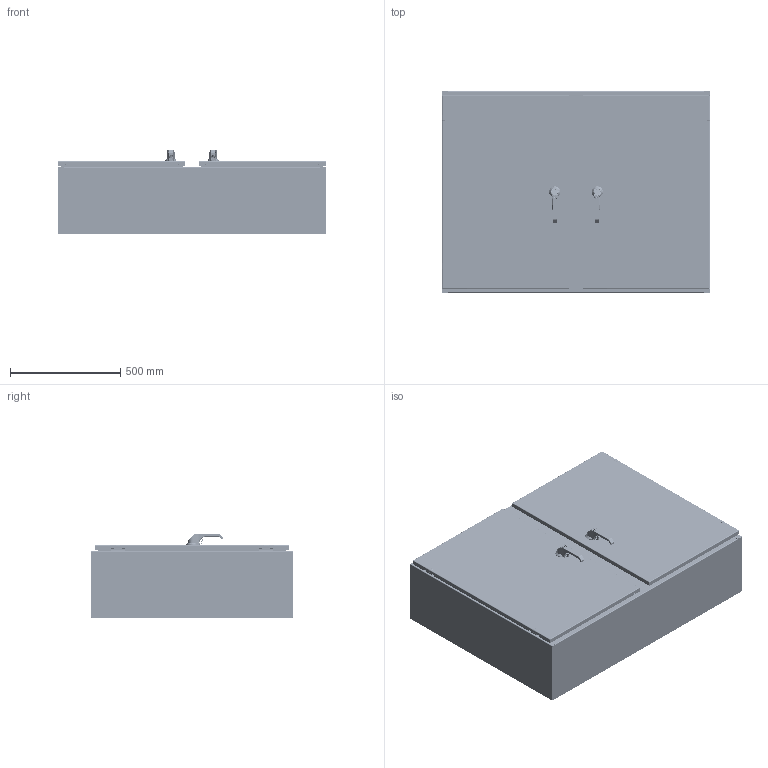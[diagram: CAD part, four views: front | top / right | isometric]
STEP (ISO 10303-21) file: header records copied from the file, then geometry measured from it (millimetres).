
FILE_DESCRIPTION((''),'2;1');
FILE_NAME('MODEL-324_ASM','2025-12-30T06:34:13',('ChadS'),('SAGINAW CONTROL & ENGINEERING'),'CREO PARAMETRIC BY PTC INC, 2021284','CREO PARAMETRIC BY PTC INC, 2021284','');
FILE_SCHEMA(('AUTOMOTIVE_DESIGN { 1 0 10303 214 1 1 1 1 }'));
Length unit declared in the file: inch
Products named in the file (76): MODEL-324-BDY; MODEL-324-TP; MODEL-324-BTM; 128379; 100028; 128379_ASM; MODEL-324-CCA-CHNL; 100062; 127618; 128380; 102535; MODEL-324-CCASSY_ASM; MODEL-324-R-DR; 100837; 100882; 111267; 100955_SCREW_MTG; 100955_PADLOCK_CATCH; 100955_SCREW_LARGE; 100955_INSERT_SHAFT; 100955_INSERT_PKH; 100955_GASKET; 100955_O-RING; 100955_BASE; 100955_SPRING; 100955_HANDLE; 100955_CAM_SHAFT; 100955_HANDLE_ASM; 100955_CAM_ADAPTER; 100955_EARTH_NUT; 100955_FLANGE_NUT; 100955_CAM_NUT; 100955_KEY_INSERT; 100955_SPRING_CAM; 100955_TORSION_SPRING; 100955_SCREW_INSERT; 100955_ASM; 102236; 100030; 102236_ASM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
Assembly tree (173 placements, depth 5):
  MODEL-324_ASM
    MODEL-324-BDY
    MODEL-324-TP
    MODEL-324-BTM
    128379_ASM  x2
      128379
      100028
    MODEL-324-CCASSY_ASM
      MODEL-324-CCA-CHNL
      100062  x2
      127618  x2
      128380  x2
      102535  x8
    MODEL-324-RIGHT-DR-ASSY_ASM
      MODEL-324-R-DR
      100837  x5
      100882  x4
      111267
      100955_ASM
        100955_SCREW_MTG
        100955_PADLOCK_CATCH
        100955_SCREW_LARGE  x2
        100955_INSERT_SHAFT
        100955_INSERT_PKH
        100955_GASKET
        100955_O-RING
        100955_BASE
        100955_SPRING
        100955_HANDLE_ASM
          100955_HANDLE
          100955_CAM_SHAFT
        100955_CAM_ADAPTER
        100955_EARTH_NUT
        100955_FLANGE_NUT
        100955_CAM_NUT
        100955_KEY_INSERT
        100955_SPRING_CAM
        100955_TORSION_SPRING
        100955_SCREW_INSERT
      102236_ASM
        102236
        100030  x2
      MODEL-324-ROD-UPR-RD_ASM
        MODEL-324-ROD-UPR-RD
        128146
        128145
        128144
        102482  x2
      128143  x2
      112504  x2
      MODEL-324-ROD-LWR-RD_ASM
        MODEL-324-ROD-LWR-RD
        128146
        128145
        128144
        102482  x2
      MODEL-324-GSKT-R-DR
      126391_ASM  x2
        126391
      126393  x2
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Bounding box: 1219.2 x 914.4 x 383.31 mm (x, y, z)
Volume: 11983332.4 mm3; surface area: 10710931.1 mm2
Topology: 201 solids, 201 shells, 17320 faces, 43178 edges, 26208 vertices
Faces by surface type: plane 6113, cylinder 4591, bspline 3060, torus 1602, cone 1274, sphere 620, extrusion 60
Entity records: 375407 total; most frequent: CARTESIAN_POINT 148882, ORIENTED_EDGE 35016, DIRECTION 32023, PRESENTATION_STYLE_ASSIGNMENT 17583, STYLED_ITEM 17578, CURVE_STYLE 17508, EDGE_CURVE 17508, AXIS2_PLACEMENT_3D 11831
